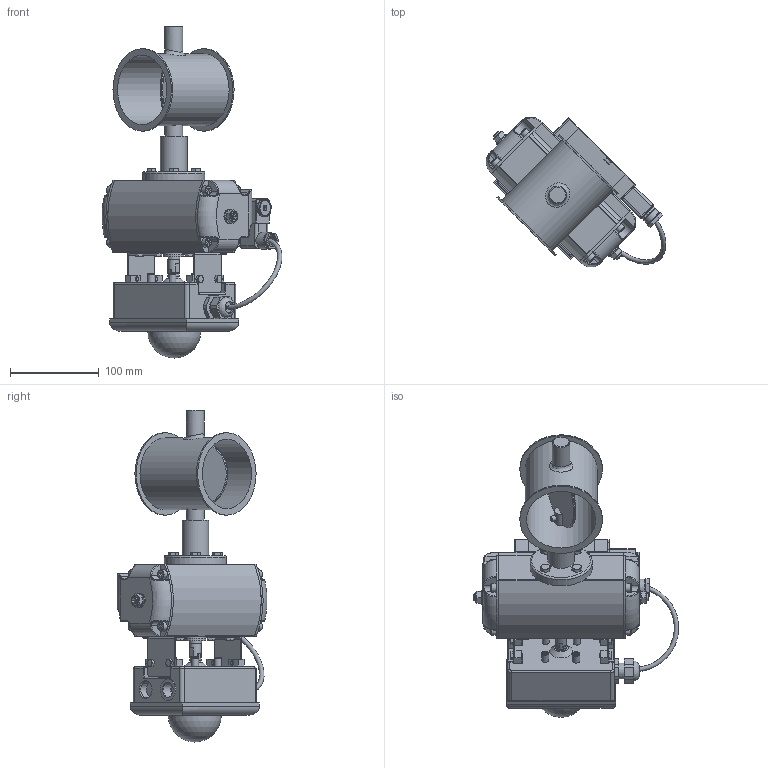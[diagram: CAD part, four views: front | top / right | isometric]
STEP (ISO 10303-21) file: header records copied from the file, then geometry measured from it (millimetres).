
FILE_DESCRIPTION((''),'2;1');
FILE_NAME('U:\Wolfgang\Marcel-3D\fertig\Kapitel 8\0821213.stp','2011-05-03T15:07:32',('TK1'),(''),'Autodesk Inventor 2010','Autodesk Inventor 2010','');
FILE_SCHEMA(('AUTOMOTIVE_DESIGN { 1 0 10303 214 1 1 1 1 }'));
Length unit declared in the file: millimetre
Products named in the file (40): 0821213; BuchseD15 70-50; Bolzen D15; Scheibe80b; DIN 6912 M6 x 16; DIN EN ISO 4018 M6x25; 0811075-1; Pneumatischer SchwenkantriebS63D-2; Body; roter Verschluss; A1 Schwenkantrieb; Body S063D; End Cap L; End Cap R; DIN EN ISO 4762 M6 x 12; DIN EN ISO 4018 M5x10; DIN 916 M8  x  40; DIN 555 - ersetzt durch DIN EN 24034 M8; DIN 125-1 A A 8,4; DIN 125-1 A A 13; A1 Ventileinheit-2; Ventil1; Ventil1a; Ventil1b; Ventil1a_1; Ventil1b_1; ISO 7046-1 Z M4 x 25 - 4.8 - Z; Ventil1c; Ventil1d; ISO 7047 (H) M3x8 - 4.8 - H; DIN 7984 M6 x 40; DIN EN ISO 7042 M8; Ventil1e; Ventil1f; DIN EN 24766 M6 x 30; DIN 439-2 - ersetzt durch DIN EN 24035/28675 M6; entlüftung; Halterung; Deckel2; Schlauch 1
Assembly tree (78 placements, depth 4):
  0821213
    BuchseD15 70-50
    Bolzen D15  x2
    Scheibe80b
    DIN 6912 M6 x 16  x2
    DIN EN ISO 4018 M6x25  x4
    0811075-1
    Pneumatischer SchwenkantriebS63D-2
      Body
      roter Verschluss
      A1 Schwenkantrieb
        Body S063D
        End Cap L
        End Cap R
        DIN EN ISO 4762 M6 x 12  x8
        DIN EN ISO 4018 M5x10  x4
        DIN 916 M8  x  40  x2
        DIN 555 - ersetzt durch DIN EN 24034 M8  x2
        DIN 125-1 A A 8,4  x2
        DIN 125-1 A A 13  x2
      A1 Ventileinheit-2
        Ventil1
        Ventil1a
        Ventil1b
        Ventil1a_1
        Ventil1b_1
        ISO 7046-1 Z M4 x 25 - 4.8 - Z  x8
        Ventil1c
        Ventil1d
        ISO 7047 (H) M3x8 - 4.8 - H
        DIN 7984 M6 x 40  x2
        DIN EN ISO 7042 M8  x2
        DIN 125-1 A A 8,4  x2
        Ventil1e  x2
        Ventil1f  x2
        DIN EN 24766 M6 x 30  x2
        DIN 439-2 - ersetzt durch DIN EN 24035/28675 M6  x2
        entlüftung
      Halterung  x2
      DIN EN ISO 4018 M5x10  x4
      Deckel2
      Schlauch 1
Bounding box: 202.7 x 168.87 x 374 mm (x, y, z)
Volume: 1587594.6 mm3; surface area: 359948.2 mm2
Topology: 78 solids, 79 shells, 1677 faces, 3964 edges, 2519 vertices
Faces by surface type: plane 822, cylinder 326, cone 302, bspline 146, torus 73, sphere 8
Full cylindrical faces by diameter (mm): 2.5 x1, 3 x3, 3.242 x8, 3.571 x8, 4 x8, 4.917 x4, 5 x10, 5.5 x1, 6 x24, 6.647 x1, 8 x6, 8.4 x12, 10 x14, 11.63 x6, 11.9 x2, 12 x1, 12.5 x1, 13 x7, 14 x5, 15 x3, 15.5 x1, 15.918 x1, 16 x5, 16.918 x1, 17 x3, 17.79 x2, 18 x3, 19 x2, 20 x2, 22 x1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
Entity records: 30397 total; most frequent: CARTESIAN_POINT 8235, DIRECTION 4455, ORIENTED_EDGE 3886, EDGE_CURVE 1943, AXIS2_PLACEMENT_3D 1762, VERTEX_POINT 1364, EDGE_LOOP 1358, FACE_OUTER_BOUND 957
